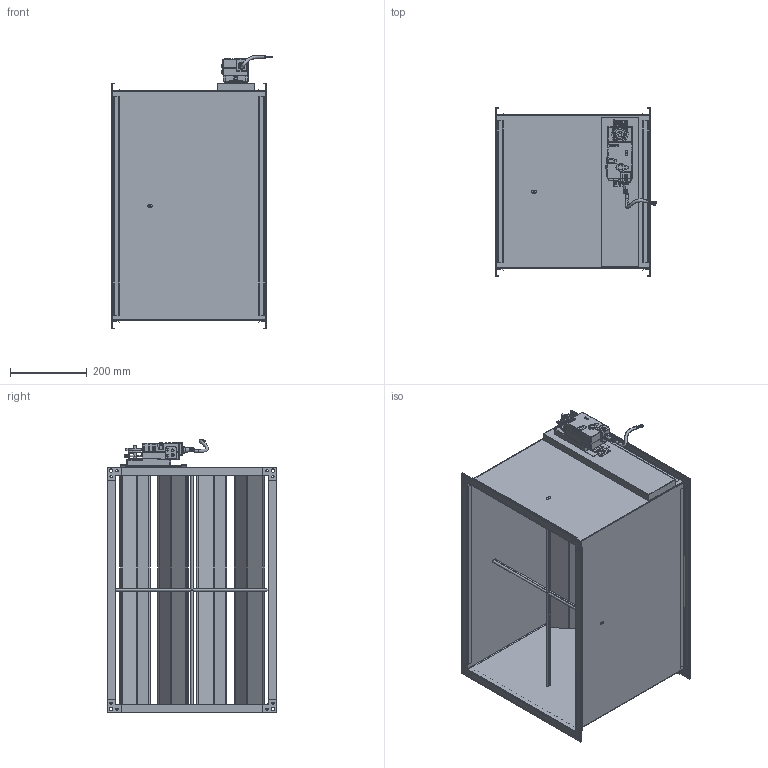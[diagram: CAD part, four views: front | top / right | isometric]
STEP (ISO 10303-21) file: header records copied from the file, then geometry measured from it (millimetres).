
FILE_DESCRIPTION (( 'STEP AP214' ), '1' );
FILE_NAME ('VAV-S600400.STEP', '2025-05-08T11:39:03', ( '' ), ( '' ), 'SwSTEP 2.0', 'SolidWorks 2025', '' );
FILE_SCHEMA (( 'AUTOMOTIVE_DESIGN' ));
Length unit declared in the file: millimetre
Products named in the file (1): VAV-S600400
Bounding box: 420.27 x 441 x 713.69 mm (x, y, z)
Surface area: 3007453 mm2 (no closed solid volume)
Topology: 0 solids, 48 shells, 2074 faces, 5409 edges, 3442 vertices
Faces by surface type: plane 1531, cylinder 490, bspline 24, sphere 18, cone 10, torus 1
Full cylindrical faces by diameter (mm): 1 x4, 6 x17, 8 x1, 9 x8, 11 x1, 20 x1, 21 x2
Entity records: 91284 total; most frequent: CARTESIAN_POINT 41506, ORIENTED_EDGE 10609, DIRECTION 6784, EDGE_CURVE 5328, VERTEX_POINT 3417, B_SPLINE_CURVE_WITH_KNOTS 3170, AXIS2_PLACEMENT_3D 2587, EDGE_LOOP 2278
